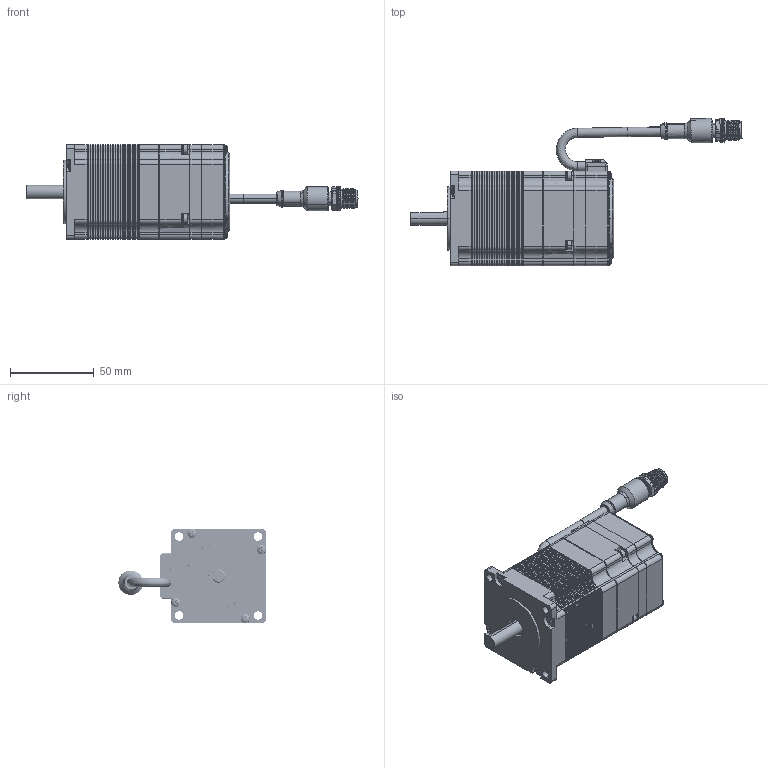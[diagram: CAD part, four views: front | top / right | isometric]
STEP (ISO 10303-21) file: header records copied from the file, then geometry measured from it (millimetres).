
FILE_DESCRIPTION (( 'STEP AP214' ), '1' );
FILE_NAME ('AB-SM-23-WB.STEP', '2024-09-26T18:08:55', ( '' ), ( '' ), 'SwSTEP 2.0', 'SolidWorks 2023', '' );
FILE_SCHEMA (( 'AUTOMOTIVE_DESIGN' ));
Length unit declared in the file: millimetre
Products named in the file (1): AB-SM-23-WB
Bounding box: 198.5 x 88.2 x 56.5 mm (x, y, z)
Surface area: 62007.7 mm2 (no closed solid volume)
Topology: 0 solids, 40 shells, 3107 faces, 8725 edges, 5771 vertices
Faces by surface type: bspline 3107
Entity records: 118886 total; most frequent: CARTESIAN_POINT 68849, ORIENTED_EDGE 17010, EDGE_CURVE 8699, B_SPLINE_CURVE_WITH_KNOTS 6913, VERTEX_POINT 5771, EDGE_LOOP 3266, FACE_OUTER_BOUND 3107, ADVANCED_FACE 3107
